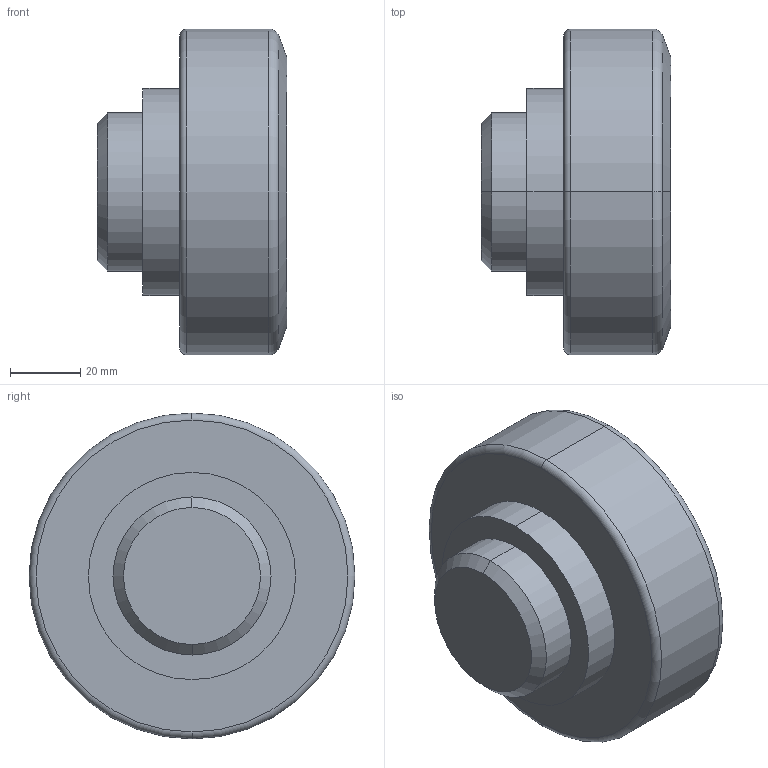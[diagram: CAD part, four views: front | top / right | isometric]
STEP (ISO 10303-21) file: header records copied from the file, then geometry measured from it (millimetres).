
FILE_DESCRIPTION (( 'STEP AP214' ), '1' );
FILE_NAME ('3D2.0448-PR.STEP', '2013-12-18T05:55:02', ( 'usuario' ), ( 'Hewlett-Packard Company' ), 'SwSTEP 2.0', 'SolidWorks 2017', '' );
FILE_SCHEMA (( 'AUTOMOTIVE_DESIGN' ));
Length unit declared in the file: millimetre
Products named in the file (1): 3D2.0448-PR
Bounding box: 54 x 92.8 x 92.8 mm (x, y, z)
Volume: 251196.8 mm3; surface area: 24798 mm2
Topology: 1 solids, 1 shells, 18 faces, 34 edges, 20 vertices
Faces by surface type: cylinder 6, cone 4, torus 4, plane 4
Entity records: 492 total; most frequent: DIRECTION 96, CARTESIAN_POINT 73, ORIENTED_EDGE 68, AXIS2_PLACEMENT_3D 43, EDGE_CURVE 34, CIRCLE 24, EDGE_LOOP 20, VERTEX_POINT 20
